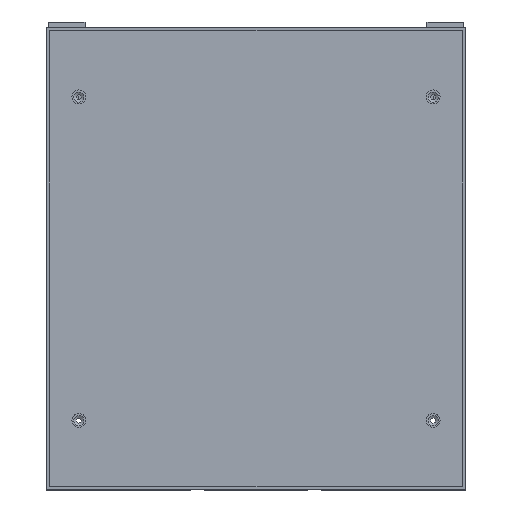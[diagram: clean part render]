
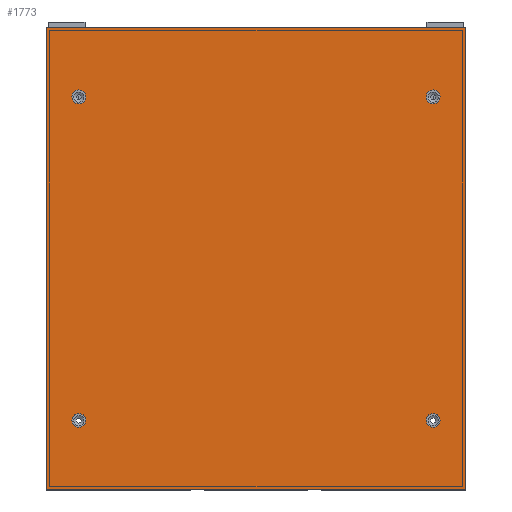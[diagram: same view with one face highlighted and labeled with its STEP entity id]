
A CAD part, top view. The second image highlights one B-rep face of the part: STEP entity #1773.
In plain terms, the highlighted planar face has unit normal (0, 0, 1).
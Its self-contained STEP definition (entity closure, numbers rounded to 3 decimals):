
#1773=ADVANCED_FACE('',(#3028,#3029,#3030,#3031,#3032),#2599,.F.);
#2599=PLANE('',#17735);
#3028=FACE_BOUND('',#3930,.T.);
#3029=FACE_BOUND('',#3931,.T.);
#3030=FACE_BOUND('',#3932,.T.);
#3031=FACE_BOUND('',#3933,.T.);
#3032=FACE_BOUND('',#3934,.T.);
#3930=EDGE_LOOP('',(#7267));
#3931=EDGE_LOOP('',(#7268));
#3932=EDGE_LOOP('',(#7269));
#3933=EDGE_LOOP('',(#7270));
#3934=EDGE_LOOP('',(#7271,#7272,#7273,#7274));
#5312=CIRCLE('',#17731,2.25);
#5313=CIRCLE('',#17732,2.25);
#5314=CIRCLE('',#17733,2.25);
#5315=CIRCLE('',#17734,2.25);
#7267=ORIENTED_EDGE('',*,*,#13312,.F.);
#7268=ORIENTED_EDGE('',*,*,#13313,.F.);
#7269=ORIENTED_EDGE('',*,*,#13314,.F.);
#7270=ORIENTED_EDGE('',*,*,#13315,.F.);
#7271=ORIENTED_EDGE('',*,*,#12987,.F.);
#7272=ORIENTED_EDGE('',*,*,#13316,.F.);
#7273=ORIENTED_EDGE('',*,*,#12917,.F.);
#7274=ORIENTED_EDGE('',*,*,#13317,.F.);
#11140=VERTEX_POINT('',#26338);
#11141=VERTEX_POINT('',#26340);
#11182=VERTEX_POINT('',#26469);
#11183=VERTEX_POINT('',#26471);
#11393=VERTEX_POINT('',#27129);
#11394=VERTEX_POINT('',#27131);
#11395=VERTEX_POINT('',#27133);
#11396=VERTEX_POINT('',#27135);
#12917=EDGE_CURVE('',#11140,#11141,#15000,.T.);
#12987=EDGE_CURVE('',#11182,#11183,#15052,.T.);
#13312=EDGE_CURVE('',#11393,#11393,#5312,.T.);
#13313=EDGE_CURVE('',#11394,#11394,#5313,.T.);
#13314=EDGE_CURVE('',#11395,#11395,#5314,.T.);
#13315=EDGE_CURVE('',#11396,#11396,#5315,.T.);
#13316=EDGE_CURVE('',#11141,#11182,#15254,.T.);
#13317=EDGE_CURVE('',#11183,#11140,#15255,.T.);
#15000=LINE('',#26339,#16214);
#15052=LINE('',#26470,#16266);
#15254=LINE('',#27136,#16468);
#15255=LINE('',#27137,#16469);
#16214=VECTOR('',#19883,1.);
#16266=VECTOR('',#20009,1.);
#16468=VECTOR('',#20711,1.);
#16469=VECTOR('',#20712,1.);
#17731=AXIS2_PLACEMENT_3D('',#27128,#20703,#20704);
#17732=AXIS2_PLACEMENT_3D('',#27130,#20705,#20706);
#17733=AXIS2_PLACEMENT_3D('',#27132,#20707,#20708);
#17734=AXIS2_PLACEMENT_3D('',#27134,#20709,#20710);
#17735=AXIS2_PLACEMENT_3D('',#27138,#20713,#20714);
#19883=DIRECTION('',(0.,1.,0.));
#20009=DIRECTION('',(0.,-1.,0.));
#20703=DIRECTION('',(0.,0.,1.));
#20704=DIRECTION('',(-1.,0.,0.));
#20705=DIRECTION('',(0.,0.,1.));
#20706=DIRECTION('',(1.,0.,0.));
#20707=DIRECTION('',(0.,0.,1.));
#20708=DIRECTION('',(-1.,0.,0.));
#20709=DIRECTION('',(0.,0.,1.));
#20710=DIRECTION('',(1.,0.,0.));
#20711=DIRECTION('',(1.,0.,0.));
#20712=DIRECTION('',(-1.,0.,0.));
#20713=DIRECTION('',(0.,0.,-1.));
#20714=DIRECTION('',(1.,0.,0.));
#26338=CARTESIAN_POINT('',(-68.,-78.,193.));
#26339=CARTESIAN_POINT('',(-68.,72.,193.));
#26340=CARTESIAN_POINT('',(-68.,72.,193.));
#26469=CARTESIAN_POINT('',(68.,72.,193.));
#26470=CARTESIAN_POINT('',(68.,72.,193.));
#26471=CARTESIAN_POINT('',(68.,-78.,193.));
#27128=CARTESIAN_POINT('',(-57.5,-55.5,193.));
#27129=CARTESIAN_POINT('',(-59.75,-55.5,193.));
#27130=CARTESIAN_POINT('',(57.5,-55.5,193.));
#27131=CARTESIAN_POINT('',(59.75,-55.5,193.));
#27132=CARTESIAN_POINT('',(57.5,49.5,193.));
#27133=CARTESIAN_POINT('',(55.25,49.5,193.));
#27134=CARTESIAN_POINT('',(-57.5,49.5,193.));
#27135=CARTESIAN_POINT('',(-55.25,49.5,193.));
#27136=CARTESIAN_POINT('',(68.,72.,193.));
#27137=CARTESIAN_POINT('',(68.,-78.,193.));
#27138=CARTESIAN_POINT('',(0.,-3.,193.));
